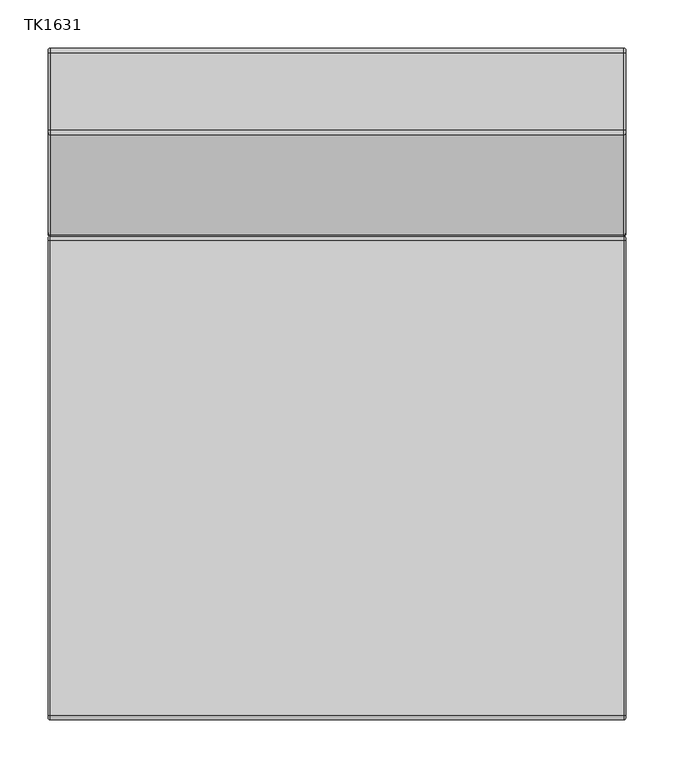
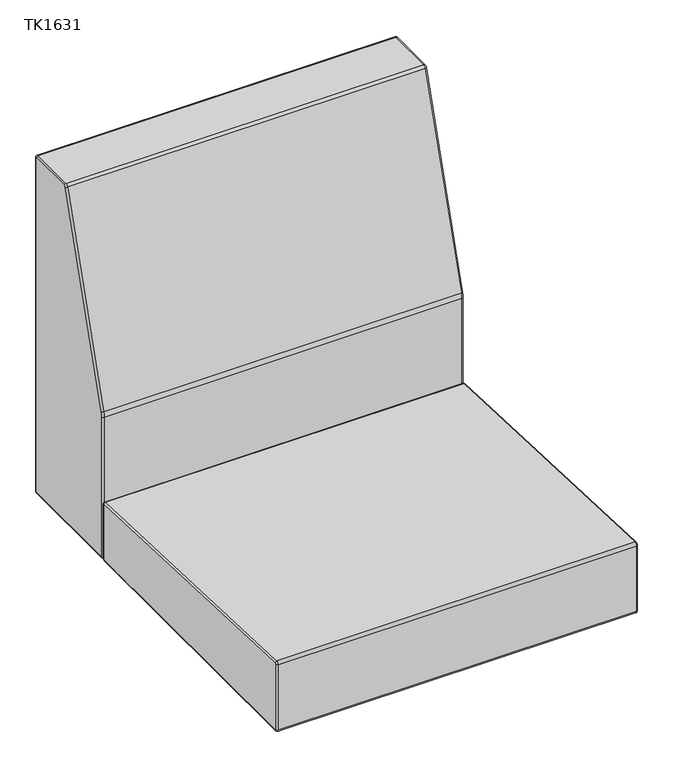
"""IFC4 building model written with IfcOpenShell, lengths in millimetres: furniture geometry, JSI-Teekan-Three_Seat_Lounge : TK1631."""

from ifc_helpers import new_model, si_unit, point, frame, origin, place, context, project, spatial, circle_curve, ellipse_curve, trimmed, source, transform, mapped, element, save
from ifc_brep_helpers import plane_surface, cylinder_surface, revolved_surface, advanced_brep


def tk1631_0486e6bf(model_context):
    return source(origin(), model_context, "Body", "AdvancedBrep", [
        advanced_brep(
        [(-298.2515625, -349.25, 197.5346851), (298.2515625, -349.25, 197.5346851), (298.2515625, -349.25, 311.8407029), (-298.2515625, -349.25, 311.8407029), (-300.6328125, -346.86875, 311.8407029), (-300.6328125, -346.86875, 197.5346851), (300.6328125, -346.86875, 197.5346851), (300.6328125, -346.86875, 311.8407029), (-298.2515625, -344.2853462, 316.5989106), (298.2515625, -344.2853462, 316.5989106), (298.2515625, 149.169864, 295.6343219), (-298.2515625, 149.169864, 295.6343219), (-300.6328125, 149.0687871, 293.255218), (-300.6328125, -344.3864231, 314.2198068), (300.6328125, -344.3864231, 314.2198068), (300.6328125, 149.0687871, 293.255218), (298.2515625, 153.7302102, 290.8761142), (-298.2515625, 153.7302102, 290.8761142), (-300.6328125, 151.3489602, 290.8761142), (300.6328125, 151.3489602, 290.8761142), (298.2515625, 153.7302102, 197.5346851), (-298.2515625, 153.7302102, 197.5346851), (-300.6328125, 151.3489602, 197.5346851), (300.6328125, 151.3489602, 197.5346851), (298.2515625, 148.9677102, 192.7721851), (-298.2515625, 148.9677102, 192.7721851), (-300.6328125, 148.9677102, 195.1534351), (300.6328125, 148.9677102, 195.1534351), (298.2515625, -344.4875, 192.7721851), (-298.2515625, -344.4875, 192.7721851), (-300.6328125, -344.4875, 195.1534351), (300.6328125, -344.4875, 195.1534351)],
        [
            (0, 1),
            (1, 2),
            (2, 3),
            (3, 0),
            (3, 4, circle_curve(frame((-298.2515625, -346.86875, 311.8407029), z_axis=(0.0, 0.0, -1.0), x_axis=(0.0, -1.0, 0.0)), 2.38125)),
            (4, 5),
            (5, 0, circle_curve(frame((-298.2515625, -346.86875, 197.5346851), z_axis=(0.0, 0.0, 1.0), x_axis=(0.0, -1.0, 0.0)), 2.38125)),
            (1, 6, circle_curve(frame((298.2515625, -346.86875, 197.5346851), z_axis=(0.0, 0.0, 1.0), x_axis=(0.0, -1.0, 0.0)), 2.38125)),
            (6, 7),
            (7, 2, circle_curve(frame((298.2515625, -346.86875, 311.8407029), z_axis=(0.0, 0.0, -1.0), x_axis=(0.0, -1.0, 0.0)), 2.38125)),
            (8, 9),
            (9, 10),
            (10, 11),
            (11, 8),
            (11, 12, circle_curve(frame((-298.2515625, 149.0687871, 293.255218), z_axis=(0.0, -0.9990987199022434, 0.04244700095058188), x_axis=(0.0, 0.04244700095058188, 0.9990987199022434)), 2.38125)),
            (12, 13),
            (13, 8, circle_curve(frame((-298.2515625, -344.3864231, 314.2198068), z_axis=(0.0, 0.9990987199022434, -0.04244700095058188), x_axis=(0.0, 0.04244700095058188, 0.9990987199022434)), 2.38125)),
            (9, 14, circle_curve(frame((298.2515625, -344.3864231, 314.2198068), z_axis=(0.0, 0.9990987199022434, -0.04244700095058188), x_axis=(0.0, 0.04244700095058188, 0.9990987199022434)), 2.38125)),
            (14, 15),
            (15, 10, circle_curve(frame((298.2515625, 149.0687871, 293.255218), z_axis=(0.0, -0.9990987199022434, 0.04244700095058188), x_axis=(0.0, 0.04244700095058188, 0.9990987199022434)), 2.38125)),
            (10, 16, circle_curve(frame((298.2515625, 148.9677102, 290.8761142), z_axis=(-1.0, 0.0, 0.0), x_axis=(0.0, 0.0424470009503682, 0.9990987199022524)), 4.7625)),
            (16, 17),
            (17, 11, circle_curve(frame((-298.2515625, 148.9677102, 290.8761142), z_axis=(1.0, 0.0, 0.0), x_axis=(0.0, 0.0424470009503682, 0.9990987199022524)), 4.7625)),
            (17, 18, circle_curve(frame((-298.2515625, 151.3489602, 290.8761142), z_axis=(0.0, 0.0, 1.0), x_axis=(0.0, 1.0, 0.0)), 2.38125)),
            (18, 12, circle_curve(frame((-300.6328125, 148.9677102, 290.8761142), z_axis=(1.0, 0.0, 0.0), x_axis=(0.0, 0.0424470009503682, 0.9990987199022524)), 2.38125)),
            (15, 19, circle_curve(frame((300.6328125, 148.9677102, 290.8761142), z_axis=(-1.0, 0.0, 0.0), x_axis=(0.0, 0.0424470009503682, 0.9990987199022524)), 2.38125)),
            (19, 16, circle_curve(frame((298.2515625, 151.3489602, 290.8761142), z_axis=(0.0, 0.0, 1.0), x_axis=(0.0, 1.0, 0.0)), 2.38125)),
            (16, 20),
            (20, 21),
            (21, 17),
            (21, 22, circle_curve(frame((-298.2515625, 151.3489602, 197.5346851), z_axis=(0.0, 0.0, 1.0), x_axis=(0.0, 1.0, 0.0)), 2.38125)),
            (22, 18),
            (19, 23),
            (23, 20, circle_curve(frame((298.2515625, 151.3489602, 197.5346851), z_axis=(0.0, 0.0, 1.0), x_axis=(0.0, 1.0, 0.0)), 2.38125)),
            (20, 24, circle_curve(frame((298.2515625, 148.9677102, 197.5346851), z_axis=(-1.0, 0.0, 0.0), x_axis=(0.0, 1.0, 0.0)), 4.7625)),
            (24, 25),
            (25, 21, circle_curve(frame((-298.2515625, 148.9677102, 197.5346851), z_axis=(1.0, 0.0, 0.0), x_axis=(0.0, 1.0, 0.0)), 4.7625)),
            (25, 26, circle_curve(frame((-298.2515625, 148.9677102, 195.1534351), z_axis=(0.0, 1.0, 0.0), x_axis=(0.0, 0.0, -1.0)), 2.38125)),
            (26, 22, circle_curve(frame((-300.6328125, 148.9677102, 197.5346851), z_axis=(1.0, 0.0, 0.0), x_axis=(0.0, 1.0, 0.0)), 2.38125)),
            (23, 27, circle_curve(frame((300.6328125, 148.9677102, 197.5346851), z_axis=(-1.0, 0.0, 0.0), x_axis=(0.0, 1.0, 0.0)), 2.38125)),
            (27, 24, circle_curve(frame((298.2515625, 148.9677102, 195.1534351), z_axis=(0.0, 1.0, 0.0), x_axis=(0.0, 0.0, -1.0)), 2.38125)),
            (24, 28),
            (28, 29),
            (29, 25),
            (29, 30, circle_curve(frame((-298.2515625, -344.4875, 195.1534351), z_axis=(0.0, 1.0, 0.0), x_axis=(0.0, 0.0, -1.0)), 2.38125)),
            (30, 26),
            (27, 31),
            (31, 28, circle_curve(frame((298.2515625, -344.4875, 195.1534351), z_axis=(0.0, 1.0, 0.0), x_axis=(0.0, 0.0, -1.0)), 2.38125)),
            (0, 29, circle_curve(frame((-298.2515625, -344.4875, 197.5346851), z_axis=(1.0, 0.0, 0.0), x_axis=(0.0, 0.0, -1.0)), 4.7625)),
            (28, 1, circle_curve(frame((298.2515625, -344.4875, 197.5346851), z_axis=(-1.0, 0.0, 0.0), x_axis=(0.0, 0.0, -1.0)), 4.7625)),
            (5, 30, circle_curve(frame((-300.6328125, -344.4875, 197.5346851), z_axis=(1.0, 0.0, 0.0), x_axis=(0.0, 0.0, -1.0)), 2.38125)),
            (31, 6, circle_curve(frame((300.6328125, -344.4875, 197.5346851), z_axis=(-1.0, 0.0, 0.0), x_axis=(0.0, 0.0, -1.0)), 2.38125)),
            (2, 9, circle_curve(frame((298.2515625, -344.4875, 311.8407029), z_axis=(-1.0, 0.0, 0.0), x_axis=(0.0, -1.0, 0.0)), 4.7625)),
            (8, 3, circle_curve(frame((-298.2515625, -344.4875, 311.8407029), z_axis=(1.0, 0.0, 0.0), x_axis=(0.0, -1.0, 0.0)), 4.7625)),
            (13, 4, circle_curve(frame((-300.6328125, -344.4875, 311.8407029), z_axis=(1.0, 0.0, 0.0), x_axis=(0.0, -1.0, 0.0)), 2.38125)),
            (14, 7, circle_curve(frame((300.6328125, -344.4875, 311.8407029), z_axis=(1.0, 0.0, 0.0), x_axis=(0.0, -1.0, 0.0)), 2.38125)),
        ],
        [
            plane_surface(frame((298.2515625, -349.25, 197.5346851), z_axis=(0.0, -1.0, 0.0), x_axis=(0.0, 0.0, 1.0))),
            cylinder_surface(frame((-298.2515625, -346.86875, 197.5346851), z_axis=(0.0, 0.0, -1.0), x_axis=(0.0, -1.0, 0.0)), 2.38125),
            cylinder_surface(frame((298.2515625, -346.86875, 197.5346851), z_axis=(0.0, 0.0, -1.0), x_axis=(0.0, -1.0, 0.0)), 2.38125),
            plane_surface(frame((298.2515625, -344.2853462, 316.5989106), z_axis=(0.0, 0.04244700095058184, 0.9990987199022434), x_axis=(0.0, 0.9990987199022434, -0.04244700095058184))),
            cylinder_surface(frame((-298.2515625, -344.3864231, 314.2198068), z_axis=(0.0, -0.9990987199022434, 0.04244700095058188), x_axis=(0.0, 0.04244700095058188, 0.9990987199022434)), 2.38125),
            cylinder_surface(frame((298.2515625, -344.3864231, 314.2198068), z_axis=(0.0, -0.9990987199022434, 0.04244700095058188), x_axis=(0.0, 0.04244700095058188, 0.9990987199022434)), 2.38125),
            cylinder_surface(frame((0.0, 148.9677102, 290.8761142), z_axis=(-1.0, 0.0, 0.0), x_axis=(0.0, 0.0424470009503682, 0.9990987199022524)), 4.7625),
            revolved_surface(trimmed(ellipse_curve(frame((-298.2515625, 149.0687871, 293.255218), z_axis=(0.0, -0.9990987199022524, 0.042447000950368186), x_axis=(0.0, 0.042447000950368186, 0.9990987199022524)), 2.38125, 2.38125), [point((-298.2515625, 149.169864, 295.6343219))], [point((-300.6328125, 149.0687871, 293.255218))], True, "CARTESIAN"), (0.0, 148.9677102, 290.8761142), (-1.0, 0.0, 0.0)),
            revolved_surface(trimmed(ellipse_curve(frame((298.2515625, 149.0687871, 293.255218), z_axis=(0.0, -0.9990987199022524, 0.042447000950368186), x_axis=(0.0, 0.042447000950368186, 0.9990987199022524)), 2.38125, 2.38125), [point((300.6328125, 149.0687871, 293.255218))], [point((298.2515625, 149.169864, 295.6343219))], True, "CARTESIAN"), (0.0, 148.9677102, 290.8761142), (-1.0, 0.0, 0.0)),
            plane_surface(frame((298.2515625, 153.7302102, 290.8761142), z_axis=(0.0, 1.0, 0.0), x_axis=(0.0, 0.0, -1.0))),
            cylinder_surface(frame((-298.2515625, 151.3489602, 290.8761142), z_axis=(0.0, 0.0, 1.0), x_axis=(0.0, 1.0, 0.0)), 2.38125),
            cylinder_surface(frame((298.2515625, 151.3489602, 290.8761142), z_axis=(0.0, 0.0, 1.0), x_axis=(0.0, 1.0, 0.0)), 2.38125),
            cylinder_surface(frame((0.0, 148.9677102, 197.5346851), z_axis=(-1.0, 0.0, 0.0), x_axis=(0.0, 1.0, 0.0)), 4.7625),
            revolved_surface(trimmed(ellipse_curve(frame((-298.2515625, 151.3489602, 197.5346851), z_axis=(0.0, 0.0, 1.0), x_axis=(0.0, 1.0, 0.0)), 2.38125, 2.38125), [point((-298.2515625, 153.7302102, 197.5346851))], [point((-300.6328125, 151.3489602, 197.5346851))], True, "CARTESIAN"), (0.0, 148.9677102, 197.5346851), (-1.0, 0.0, 0.0)),
            revolved_surface(trimmed(ellipse_curve(frame((298.2515625, 151.3489602, 197.5346851), z_axis=(0.0, 0.0, 1.0), x_axis=(0.0, 1.0, 0.0)), 2.38125, 2.38125), [point((300.6328125, 151.3489602, 197.5346851))], [point((298.2515625, 153.7302102, 197.5346851))], True, "CARTESIAN"), (0.0, 148.9677102, 197.5346851), (-1.0, 0.0, 0.0)),
            plane_surface(frame((298.2515625, 148.9677102, 192.7721851), z_axis=(0.0, 0.0, -1.0), x_axis=(0.0, -1.0, 0.0))),
            cylinder_surface(frame((-298.2515625, 148.9677102, 195.1534351), z_axis=(0.0, 1.0, 0.0), x_axis=(0.0, 0.0, -1.0)), 2.38125),
            cylinder_surface(frame((298.2515625, 148.9677102, 195.1534351), z_axis=(0.0, 1.0, 0.0), x_axis=(0.0, 0.0, -1.0)), 2.38125),
            cylinder_surface(frame((0.0, -344.4875, 197.5346851), z_axis=(-1.0, 0.0, 0.0), x_axis=(0.0, 0.0, -1.0)), 4.7625),
            revolved_surface(trimmed(ellipse_curve(frame((-298.2515625, -344.4875, 195.1534351), z_axis=(0.0, 1.0, 0.0), x_axis=(0.0, 0.0, -1.0)), 2.38125, 2.38125), [point((-298.2515625, -344.4875, 192.7721851))], [point((-300.6328125, -344.4875, 195.1534351))], True, "CARTESIAN"), (0.0, -344.4875, 197.5346851), (-1.0, 0.0, 0.0)),
            revolved_surface(trimmed(ellipse_curve(frame((298.2515625, -344.4875, 195.1534351), z_axis=(0.0, 1.0, 0.0), x_axis=(0.0, 0.0, -1.0)), 2.38125, 2.38125), [point((300.6328125, -344.4875, 195.1534351))], [point((298.2515625, -344.4875, 192.7721851))], True, "CARTESIAN"), (0.0, -344.4875, 197.5346851), (-1.0, 0.0, 0.0)),
            cylinder_surface(frame((0.0, -344.4875, 311.8407029), z_axis=(-1.0, 0.0, 0.0), x_axis=(0.0, -1.0, 0.0)), 4.7625),
            revolved_surface(trimmed(ellipse_curve(frame((-298.2515625, -346.86875, 311.8407029), z_axis=(0.0, 0.0, -1.0), x_axis=(0.0, -1.0, 0.0)), 2.38125, 2.38125), [point((-298.2515625, -349.25, 311.8407029))], [point((-300.6328125, -346.86875, 311.8407029))], True, "CARTESIAN"), (0.0, -344.4875, 311.8407029), (-1.0, 0.0, 0.0)),
            plane_surface(frame((-300.6328125, -344.4875, 311.8407029), z_axis=(-1.0, 0.0, 0.0), x_axis=(0.0, -1.0, 0.0))),
            plane_surface(frame((300.6328125, -344.4875, 311.8407029), z_axis=(1.0, 0.0, 0.0), x_axis=(0.0, -1.0, 0.0))),
            revolved_surface(trimmed(ellipse_curve(frame((298.2515625, -346.86875, 311.8407029), z_axis=(0.0, 0.0, -1.0), x_axis=(0.0, -1.0, 0.0)), 2.38125, 2.38125), [point((300.6328125, -346.86875, 311.8407029))], [point((298.2515625, -349.25, 311.8407029))], True, "CARTESIAN"), (0.0, -344.4875, 311.8407029), (-1.0, 0.0, 0.0)),
        ],
        [
            (0, [[1, 2, 3, 4]]),
            (1, [[-4, 5, 6, 7]]),
            (2, [[-2, 8, 9, 10]]),
            (3, [[11, 12, 13, 14]]),
            (4, [[-14, 15, 16, 17]]),
            (5, [[-12, 18, 19, 20]]),
            (6, [[-13, 21, 22, 23]]),
            (7, [[-15, -23, 24, 25]]),
            (8, [[-20, 26, 27, -21]]),
            (9, [[-22, 28, 29, 30]]),
            (10, [[-24, -30, 31, 32]]),
            (11, [[-27, 33, 34, -28]]),
            (12, [[-29, 35, 36, 37]]),
            (13, [[-31, -37, 38, 39]]),
            (14, [[-34, 40, 41, -35]]),
            (15, [[-36, 42, 43, 44]]),
            (16, [[-38, -44, 45, 46]]),
            (17, [[-41, 47, 48, -42]]),
            (18, [[-1, 49, -43, 50]]),
            (19, [[-7, 51, -45, -49]]),
            (20, [[-8, -50, -48, 52]]),
            (21, [[-3, 53, -11, 54]]),
            (22, [[-5, -54, -17, 55]]),
            (23, [[-6, -55, -16, -25, -32, -39, -46, -51]]),
            (24, [[-9, -52, -47, -40, -33, -26, -19, 56]]),
            (25, [[-10, -56, -18, -53]]),
        ],
    ),
        advanced_brep(
        [(300.6328125, 261.4671324, 783.3496278), (300.6328125, 263.7394056, 785.01875), (298.2515625, 263.7394056, 787.4), (298.2515625, 259.1948592, 784.0617556), (-298.2515625, 259.1948592, 784.0617556), (-298.2515625, 263.7394056, 787.4), (-300.6328125, 263.7394056, 785.01875), (-300.6328125, 261.4671324, 783.3496278), (298.2515625, 155.07802, 451.8434221), (300.6328125, 157.3502932, 451.1312943), (-300.6328125, 157.3502932, 451.1312943), (-298.2515625, 155.07802, 451.8434221), (298.2515625, 153.733973, 443.0605128), (300.6328125, 156.115223, 443.0605128), (-300.6328125, 156.115223, 443.0605128), (-298.2515625, 153.733973, 443.0605128), (298.2515625, 153.733973, 197.5346851), (300.6328125, 156.115223, 197.5346851), (-300.6328125, 156.115223, 197.5346851), (-298.2515625, 153.733973, 197.5346851), (298.2515625, 158.496473, 192.7721851), (300.6328125, 158.496473, 195.1534351), (-300.6328125, 158.496473, 195.1534351), (-298.2515625, 158.496473, 192.7721851), (298.2515625, 344.4875, 192.7721851), (300.6328125, 344.4875, 195.1534351), (-300.6328125, 344.4875, 195.1534351), (-298.2515625, 344.4875, 192.7721851), (298.2515625, 349.25, 197.5346851), (300.6328125, 346.86875, 197.5346851), (-300.6328125, 346.86875, 197.5346851), (-298.2515625, 349.25, 197.5346851), (298.2515625, 349.25, 782.6375), (300.6328125, 346.86875, 782.6375), (-300.6328125, 346.86875, 782.6375), (-298.2515625, 349.25, 782.6375), (298.2515625, 344.4875, 787.4), (300.6328125, 344.4875, 785.01875), (-300.6328125, 344.4875, 785.01875), (-298.2515625, 344.4875, 787.4)],
        [
            (0, 1, circle_curve(frame((300.6328125, 263.7394056, 782.6375), z_axis=(-1.0, 0.0, 0.0), x_axis=(0.0, 0.0, 1.0)), 2.38125)),
            (1, 2, circle_curve(frame((298.2515625, 263.7394056, 785.01875), z_axis=(0.0, -1.0, 0.0), x_axis=(0.0, 0.0, -1.0)), 2.38125)),
            (2, 3, circle_curve(frame((298.2515625, 263.7394056, 782.6375), z_axis=(1.0, 0.0, 0.0), x_axis=(0.0, 0.0, 1.0)), 4.7625)),
            (3, 0, circle_curve(frame((298.2515625, 261.4671324, 783.3496278), z_axis=(0.0, 0.2990562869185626, 0.9542354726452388), x_axis=(0.0, 0.9542354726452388, -0.2990562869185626)), 2.38125)),
            (4, 5, circle_curve(frame((-298.2515625, 263.7394056, 782.6375), z_axis=(-1.0, 0.0, 0.0), x_axis=(0.0, 0.0, 1.0)), 4.7625)),
            (5, 6, circle_curve(frame((-298.2515625, 263.7394056, 785.01875), z_axis=(0.0, -1.0, 0.0), x_axis=(0.0, 0.0, -1.0)), 2.38125)),
            (6, 7, circle_curve(frame((-300.6328125, 263.7394056, 782.6375), z_axis=(1.0, 0.0, 0.0), x_axis=(0.0, 0.0, 1.0)), 2.38125)),
            (7, 4, circle_curve(frame((-298.2515625, 261.4671324, 783.3496278), z_axis=(0.0, 0.29905628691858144, 0.9542354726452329), x_axis=(0.0, 0.9542354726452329, -0.29905628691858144)), 2.38125)),
            (2, 5),
            (4, 3),
            (3, 8),
            (8, 9, circle_curve(frame((298.2515625, 157.3502932, 451.1312943), z_axis=(0.0, 0.29905628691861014, 0.954235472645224), x_axis=(0.0, 0.954235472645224, -0.29905628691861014)), 2.38125)),
            (9, 0),
            (7, 10),
            (10, 11, circle_curve(frame((-298.2515625, 157.3502932, 451.1312943), z_axis=(0.0, 0.29905628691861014, 0.954235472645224), x_axis=(0.0, 0.954235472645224, -0.29905628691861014)), 2.38125)),
            (11, 4),
            (11, 8),
            (8, 12, circle_curve(frame((298.2515625, 183.102723, 443.0605128), z_axis=(1.0, 0.0, 0.0), x_axis=(0.0, -0.9542354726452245, 0.29905628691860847)), 29.36875)),
            (12, 13, circle_curve(frame((298.2515625, 156.115223, 443.0605128), z_axis=(0.0, 0.0, 1.0), x_axis=(0.0, 1.0, 0.0)), 2.38125)),
            (13, 9, circle_curve(frame((300.6328125, 183.102723, 443.0605128), z_axis=(-1.0, 0.0, 0.0), x_axis=(0.0, -0.9542354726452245, 0.29905628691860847)), 26.9875)),
            (10, 14, circle_curve(frame((-300.6328125, 183.102723, 443.0605128), z_axis=(1.0, 0.0, 0.0), x_axis=(0.0, -0.9542354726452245, 0.29905628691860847)), 26.9875)),
            (14, 15, circle_curve(frame((-298.2515625, 156.115223, 443.0605128), z_axis=(0.0, 0.0, 1.0), x_axis=(0.0, 1.0, 0.0)), 2.38125)),
            (15, 11, circle_curve(frame((-298.2515625, 183.102723, 443.0605128), z_axis=(-1.0, 0.0, 0.0), x_axis=(0.0, -0.9542354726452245, 0.29905628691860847)), 29.36875)),
            (15, 12),
            (12, 16),
            (16, 17, circle_curve(frame((298.2515625, 156.115223, 197.5346851), z_axis=(0.0, 0.0, 1.0), x_axis=(0.0, 1.0, 0.0)), 2.38125)),
            (17, 13),
            (14, 18),
            (18, 19, circle_curve(frame((-298.2515625, 156.115223, 197.5346851), z_axis=(0.0, 0.0, 1.0), x_axis=(0.0, 1.0, 0.0)), 2.38125)),
            (19, 15),
            (19, 16),
            (16, 20, circle_curve(frame((298.2515625, 158.496473, 197.5346851), z_axis=(1.0, 0.0, 0.0), x_axis=(0.0, -1.0, 0.0)), 4.7625)),
            (20, 21, circle_curve(frame((298.2515625, 158.496473, 195.1534351), z_axis=(0.0, -1.0, 0.0), x_axis=(0.0, 0.0, 1.0)), 2.38125)),
            (21, 17, circle_curve(frame((300.6328125, 158.496473, 197.5346851), z_axis=(-1.0, 0.0, 0.0), x_axis=(0.0, -1.0, 0.0)), 2.38125)),
            (18, 22, circle_curve(frame((-300.6328125, 158.496473, 197.5346851), z_axis=(1.0, 0.0, 0.0), x_axis=(0.0, -1.0, 0.0)), 2.38125)),
            (22, 23, circle_curve(frame((-298.2515625, 158.496473, 195.1534351), z_axis=(0.0, -1.0, 0.0), x_axis=(0.0, 0.0, 1.0)), 2.38125)),
            (23, 19, circle_curve(frame((-298.2515625, 158.496473, 197.5346851), z_axis=(-1.0, 0.0, 0.0), x_axis=(0.0, -1.0, 0.0)), 4.7625)),
            (23, 20),
            (20, 24),
            (24, 25, circle_curve(frame((298.2515625, 344.4875, 195.1534351), z_axis=(0.0, -1.0, 0.0), x_axis=(0.0, 0.0, 1.0)), 2.38125)),
            (25, 21),
            (22, 26),
            (26, 27, circle_curve(frame((-298.2515625, 344.4875, 195.1534351), z_axis=(0.0, -1.0, 0.0), x_axis=(0.0, 0.0, 1.0)), 2.38125)),
            (27, 23),
            (27, 24),
            (24, 28, circle_curve(frame((298.2515625, 344.4875, 197.5346851), z_axis=(1.0, 0.0, 0.0), x_axis=(0.0, 0.0, -1.0)), 4.7625)),
            (28, 29, circle_curve(frame((298.2515625, 346.86875, 197.5346851), z_axis=(0.0, 0.0, -1.0), x_axis=(0.0, -1.0, 0.0)), 2.38125)),
            (29, 25, circle_curve(frame((300.6328125, 344.4875, 197.5346851), z_axis=(-1.0, 0.0, 0.0), x_axis=(0.0, 0.0, -1.0)), 2.38125)),
            (26, 30, circle_curve(frame((-300.6328125, 344.4875, 197.5346851), z_axis=(1.0, 0.0, 0.0), x_axis=(0.0, 0.0, -1.0)), 2.38125)),
            (30, 31, circle_curve(frame((-298.2515625, 346.86875, 197.5346851), z_axis=(0.0, 0.0, -1.0), x_axis=(0.0, -1.0, 0.0)), 2.38125)),
            (31, 27, circle_curve(frame((-298.2515625, 344.4875, 197.5346851), z_axis=(-1.0, 0.0, 0.0), x_axis=(0.0, 0.0, -1.0)), 4.7625)),
            (31, 28),
            (28, 32),
            (32, 33, circle_curve(frame((298.2515625, 346.86875, 782.6375), z_axis=(0.0, 0.0, -1.0), x_axis=(0.0, -1.0, 0.0)), 2.38125)),
            (33, 29),
            (30, 34),
            (34, 35, circle_curve(frame((-298.2515625, 346.86875, 782.6375), z_axis=(0.0, 0.0, -1.0), x_axis=(0.0, -1.0, 0.0)), 2.38125)),
            (35, 31),
            (35, 32),
            (32, 36, circle_curve(frame((298.2515625, 344.4875, 782.6375), z_axis=(1.0, 0.0, 0.0), x_axis=(0.0, 1.0, 0.0)), 4.7625)),
            (36, 37, circle_curve(frame((298.2515625, 344.4875, 785.01875), z_axis=(0.0, 1.0, 0.0), x_axis=(0.0, 0.0, -1.0)), 2.38125)),
            (37, 33, circle_curve(frame((300.6328125, 344.4875, 782.6375), z_axis=(-1.0, 0.0, 0.0), x_axis=(0.0, 1.0, 0.0)), 2.38125)),
            (34, 38, circle_curve(frame((-300.6328125, 344.4875, 782.6375), z_axis=(1.0, 0.0, 0.0), x_axis=(0.0, 1.0, 0.0)), 2.38125)),
            (38, 39, circle_curve(frame((-298.2515625, 344.4875, 785.01875), z_axis=(0.0, 1.0, 0.0), x_axis=(0.0, 0.0, -1.0)), 2.38125)),
            (39, 35, circle_curve(frame((-298.2515625, 344.4875, 782.6375), z_axis=(-1.0, 0.0, 0.0), x_axis=(0.0, 1.0, 0.0)), 4.7625)),
            (39, 36),
            (1, 37),
            (36, 2),
            (6, 38),
            (5, 39),
        ],
        [
            revolved_surface(trimmed(ellipse_curve(frame((298.2515625, 263.7394056, 785.01875), z_axis=(0.0, 1.0, 0.0), x_axis=(0.0, 0.0, -1.0)), 2.38125, 2.38125), [point((298.2515625, 263.7394056, 787.4))], [point((300.6328125, 263.7394056, 785.01875))], True, "CARTESIAN"), (0.0, 263.7394056, 782.6375), (1.0, 0.0, 0.0)),
            revolved_surface(trimmed(ellipse_curve(frame((-298.2515625, 263.7394056, 785.01875), z_axis=(0.0, 1.0, 0.0), x_axis=(0.0, 0.0, -1.0)), 2.38125, 2.38125), [point((-300.6328125, 263.7394056, 785.01875))], [point((-298.2515625, 263.7394056, 787.4))], True, "CARTESIAN"), (0.0, 263.7394056, 782.6375), (1.0, 0.0, 0.0)),
            cylinder_surface(frame((0.0, 263.7394056, 782.6375), z_axis=(1.0, 0.0, 0.0), x_axis=(0.0, 0.0, 1.0)), 4.7625),
            cylinder_surface(frame((298.2515625, 261.4671324, 783.3496278), z_axis=(0.0, 0.29905628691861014, 0.954235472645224), x_axis=(0.0, 0.954235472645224, -0.29905628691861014)), 2.38125),
            cylinder_surface(frame((-298.2515625, 261.4671324, 783.3496278), z_axis=(0.0, 0.29905628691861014, 0.954235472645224), x_axis=(0.0, 0.954235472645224, -0.29905628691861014)), 2.38125),
            plane_surface(frame((-298.2515625, 259.1948592, 784.0617556), z_axis=(0.0, -0.9542354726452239, 0.29905628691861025), x_axis=(0.0, -0.29905628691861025, -0.9542354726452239))),
            revolved_surface(trimmed(ellipse_curve(frame((298.2515625, 157.3502932, 451.1312943), z_axis=(0.0, 0.299056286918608, 0.9542354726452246), x_axis=(0.0, 0.9542354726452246, -0.299056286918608)), 2.38125, 2.38125), [point((298.2515625, 155.07802, 451.8434221))], [point((300.6328125, 157.3502932, 451.1312943))], True, "CARTESIAN"), (0.0, 183.102723, 443.0605128), (1.0, 0.0, 0.0)),
            revolved_surface(trimmed(ellipse_curve(frame((-298.2515625, 157.3502932, 451.1312943), z_axis=(0.0, 0.299056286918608, 0.9542354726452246), x_axis=(0.0, 0.9542354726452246, -0.299056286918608)), 2.38125, 2.38125), [point((-300.6328125, 157.3502932, 451.1312943))], [point((-298.2515625, 155.07802, 451.8434221))], True, "CARTESIAN"), (0.0, 183.102723, 443.0605128), (1.0, 0.0, 0.0)),
            cylinder_surface(frame((0.0, 183.102723, 443.0605128), z_axis=(1.0, 0.0, 0.0), x_axis=(0.0, -0.9542354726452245, 0.29905628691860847)), 29.36875),
            cylinder_surface(frame((298.2515625, 156.115223, 443.0605128), z_axis=(0.0, 0.0, 1.0), x_axis=(0.0, 1.0, 0.0)), 2.38125),
            cylinder_surface(frame((-298.2515625, 156.115223, 443.0605128), z_axis=(0.0, 0.0, 1.0), x_axis=(0.0, 1.0, 0.0)), 2.38125),
            plane_surface(frame((-298.2515625, 153.733973, 443.0605128), z_axis=(0.0, -1.0, 0.0), x_axis=(0.0, 0.0, -1.0))),
            revolved_surface(trimmed(ellipse_curve(frame((298.2515625, 156.115223, 197.5346851), z_axis=(0.0, 0.0, 1.0), x_axis=(0.0, 1.0, 0.0)), 2.38125, 2.38125), [point((298.2515625, 153.733973, 197.5346851))], [point((300.6328125, 156.115223, 197.5346851))], True, "CARTESIAN"), (0.0, 158.496473, 197.5346851), (1.0, 0.0, 0.0)),
            revolved_surface(trimmed(ellipse_curve(frame((-298.2515625, 156.115223, 197.5346851), z_axis=(0.0, 0.0, 1.0), x_axis=(0.0, 1.0, 0.0)), 2.38125, 2.38125), [point((-300.6328125, 156.115223, 197.5346851))], [point((-298.2515625, 153.733973, 197.5346851))], True, "CARTESIAN"), (0.0, 158.496473, 197.5346851), (1.0, 0.0, 0.0)),
            cylinder_surface(frame((0.0, 158.496473, 197.5346851), z_axis=(1.0, 0.0, 0.0), x_axis=(0.0, -1.0, 0.0)), 4.7625),
            cylinder_surface(frame((298.2515625, 158.496473, 195.1534351), z_axis=(0.0, -1.0, 0.0), x_axis=(0.0, 0.0, 1.0)), 2.38125),
            cylinder_surface(frame((-298.2515625, 158.496473, 195.1534351), z_axis=(0.0, -1.0, 0.0), x_axis=(0.0, 0.0, 1.0)), 2.38125),
            plane_surface(frame((-298.2515625, 158.496473, 192.7721851), z_axis=(0.0, 0.0, -1.0), x_axis=(0.0, 1.0, 0.0))),
            revolved_surface(trimmed(ellipse_curve(frame((298.2515625, 344.4875, 195.1534351), z_axis=(0.0, -1.0, 0.0), x_axis=(0.0, 0.0, 1.0)), 2.38125, 2.38125), [point((298.2515625, 344.4875, 192.7721851))], [point((300.6328125, 344.4875, 195.1534351))], True, "CARTESIAN"), (0.0, 344.4875, 197.5346851), (1.0, 0.0, 0.0)),
            revolved_surface(trimmed(ellipse_curve(frame((-298.2515625, 344.4875, 195.1534351), z_axis=(0.0, -1.0, 0.0), x_axis=(0.0, 0.0, 1.0)), 2.38125, 2.38125), [point((-300.6328125, 344.4875, 195.1534351))], [point((-298.2515625, 344.4875, 192.7721851))], True, "CARTESIAN"), (0.0, 344.4875, 197.5346851), (1.0, 0.0, 0.0)),
            cylinder_surface(frame((0.0, 344.4875, 197.5346851), z_axis=(1.0, 0.0, 0.0), x_axis=(0.0, 0.0, -1.0)), 4.7625),
            cylinder_surface(frame((298.2515625, 346.86875, 197.5346851), z_axis=(0.0, 0.0, -1.0), x_axis=(0.0, -1.0, 0.0)), 2.38125),
            cylinder_surface(frame((-298.2515625, 346.86875, 197.5346851), z_axis=(0.0, 0.0, -1.0), x_axis=(0.0, -1.0, 0.0)), 2.38125),
            plane_surface(frame((-298.2515625, 349.25, 197.5346851), z_axis=(0.0, 1.0, 0.0), x_axis=(0.0, 0.0, 1.0))),
            revolved_surface(trimmed(ellipse_curve(frame((298.2515625, 346.86875, 782.6375), z_axis=(0.0, 0.0, -1.0), x_axis=(0.0, -1.0, 0.0)), 2.38125, 2.38125), [point((298.2515625, 349.25, 782.6375))], [point((300.6328125, 346.86875, 782.6375))], True, "CARTESIAN"), (0.0, 344.4875, 782.6375), (1.0, 0.0, 0.0)),
            revolved_surface(trimmed(ellipse_curve(frame((-298.2515625, 346.86875, 782.6375), z_axis=(0.0, 0.0, -1.0), x_axis=(0.0, -1.0, 0.0)), 2.38125, 2.38125), [point((-300.6328125, 346.86875, 782.6375))], [point((-298.2515625, 349.25, 782.6375))], True, "CARTESIAN"), (0.0, 344.4875, 782.6375), (1.0, 0.0, 0.0)),
            cylinder_surface(frame((0.0, 344.4875, 782.6375), z_axis=(1.0, 0.0, 0.0), x_axis=(0.0, 1.0, 0.0)), 4.7625),
            cylinder_surface(frame((298.2515625, 344.4875, 785.01875), z_axis=(0.0, 1.0, 0.0), x_axis=(0.0, 0.0, -1.0)), 2.38125),
            plane_surface(frame((300.6328125, 344.4875, 785.01875), z_axis=(1.0, 0.0, 0.0), x_axis=(0.0, -1.0, 0.0))),
            plane_surface(frame((-300.6328125, 344.4875, 783.43125), z_axis=(-1.0, 0.0, 0.0), x_axis=(0.0, -1.0, 0.0))),
            cylinder_surface(frame((-298.2515625, 344.4875, 785.01875), z_axis=(0.0, 1.0, 0.0), x_axis=(0.0, 0.0, -1.0)), 2.38125),
            plane_surface(frame((-298.2515625, 344.4875, 787.4), z_axis=(0.0, 0.0, 1.0), x_axis=(0.0, -1.0, 0.0))),
        ],
        [
            (0, [[1, 2, 3, 4]]),
            (1, [[5, 6, 7, 8]]),
            (2, [[-3, 9, -5, 10]]),
            (3, [[-4, 11, 12, 13]]),
            (4, [[-8, 14, 15, 16]]),
            (5, [[-10, -16, 17, -11]]),
            (6, [[-12, 18, 19, 20]]),
            (7, [[-15, 21, 22, 23]]),
            (8, [[-17, -23, 24, -18]]),
            (9, [[-19, 25, 26, 27]]),
            (10, [[-22, 28, 29, 30]]),
            (11, [[-24, -30, 31, -25]]),
            (12, [[-26, 32, 33, 34]]),
            (13, [[-29, 35, 36, 37]]),
            (14, [[-31, -37, 38, -32]]),
            (15, [[-33, 39, 40, 41]]),
            (16, [[-36, 42, 43, 44]]),
            (17, [[-38, -44, 45, -39]]),
            (18, [[-40, 46, 47, 48]]),
            (19, [[-43, 49, 50, 51]]),
            (20, [[-45, -51, 52, -46]]),
            (21, [[-47, 53, 54, 55]]),
            (22, [[-50, 56, 57, 58]]),
            (23, [[-52, -58, 59, -53]]),
            (24, [[-54, 60, 61, 62]]),
            (25, [[-57, 63, 64, 65]]),
            (26, [[-59, -65, 66, -60]]),
            (27, [[-2, 67, -61, 68]]),
            (28, [[-1, -13, -20, -27, -34, -41, -48, -55, -62, -67]]),
            (29, [[-7, 69, -63, -56, -49, -42, -35, -28, -21, -14]]),
            (30, [[-6, 70, -64, -69]]),
            (31, [[-9, -68, -66, -70]]),
        ],
    ),
    ])


if __name__ == "__main__":
    model = new_model("IFC4")
    model_context = context("Model", 3, world=origin())
    ifc_project = project(units=[si_unit("LENGTHUNIT", "METRE", prefix="MILLI")], contexts=[model_context])
    site = spatial("IfcSite", under=ifc_project)
    building = spatial("IfcBuilding", under=site)
    placement = place(None, origin())
    tk1631_shape = tk1631_0486e6bf(model_context)
    element("IfcFurniture", 1, ObjectType="JSI-Teekan-Three_Seat_Lounge : TK1631", at=placement, inside=building, context=model_context, shape_type="MappedRepresentation", body=[
        mapped(tk1631_shape, transform((0.0, 0.0, 0.0), x_axis=(1.0, 0.0, 0.0), y_axis=(0.0, 1.0, 0.0), z_axis=(0.0, 0.0, 1.0))),
    ])
    save(model, "model.ifc")
